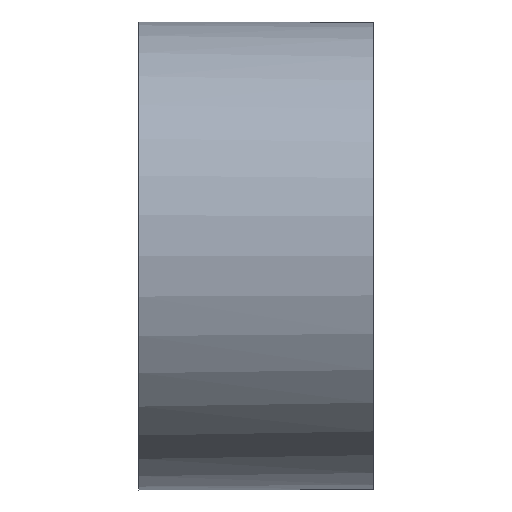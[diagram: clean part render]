
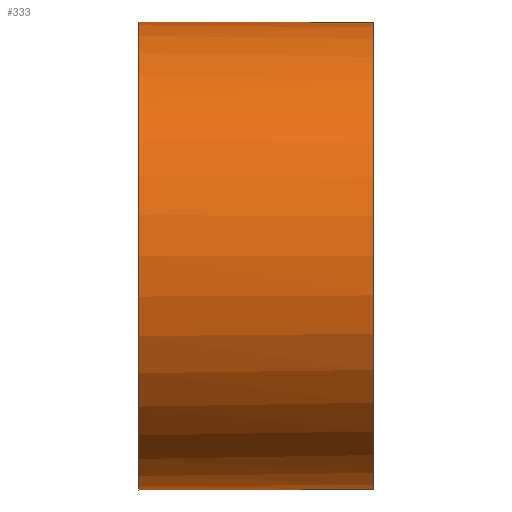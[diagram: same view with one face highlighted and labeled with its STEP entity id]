
A CAD part, left-side view. The second image highlights one B-rep face of the part: STEP entity #333.
In plain terms, the highlighted cylindrical face has radius 30 mm (diameter 60 mm), a partial arc.
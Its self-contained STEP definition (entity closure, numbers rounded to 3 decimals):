
#47=FACE_OUTER_BOUND('',#66,.T.);
#66=EDGE_LOOP('',(#295,#296,#297,#298,#299,#300,#301,#302));
#86=LINE('',#512,#121);
#96=LINE('',#532,#131);
#103=LINE('',#559,#138);
#104=LINE('',#563,#139);
#121=VECTOR('',#416,10.);
#131=VECTOR('',#430,10.);
#138=VECTOR('',#463,10.);
#139=VECTOR('',#468,10.);
#144=CIRCLE('',#369,30.);
#146=CIRCLE('',#372,30.);
#148=CIRCLE('',#375,30.);
#150=CIRCLE('',#380,30.);
#163=VERTEX_POINT('',#509);
#164=VERTEX_POINT('',#511);
#171=VERTEX_POINT('',#529);
#172=VERTEX_POINT('',#531);
#173=VERTEX_POINT('',#537);
#176=VERTEX_POINT('',#547);
#179=VERTEX_POINT('',#557);
#180=VERTEX_POINT('',#561);
#198=EDGE_CURVE('',#164,#163,#86,.T.);
#208=EDGE_CURVE('',#172,#171,#96,.T.);
#211=EDGE_CURVE('',#172,#173,#144,.T.);
#214=EDGE_CURVE('',#164,#171,#146,.T.);
#217=EDGE_CURVE('',#176,#163,#148,.T.);
#222=EDGE_CURVE('',#176,#179,#103,.T.);
#223=EDGE_CURVE('',#180,#179,#150,.T.);
#224=EDGE_CURVE('',#173,#180,#104,.T.);
#295=ORIENTED_EDGE('',*,*,#198,.T.);
#296=ORIENTED_EDGE('',*,*,#217,.F.);
#297=ORIENTED_EDGE('',*,*,#222,.T.);
#298=ORIENTED_EDGE('',*,*,#223,.F.);
#299=ORIENTED_EDGE('',*,*,#224,.F.);
#300=ORIENTED_EDGE('',*,*,#211,.F.);
#301=ORIENTED_EDGE('',*,*,#208,.T.);
#302=ORIENTED_EDGE('',*,*,#214,.F.);
#318=CYLINDRICAL_SURFACE('',#379,30.);
#333=ADVANCED_FACE('',(#47),#318,.T.);
#369=AXIS2_PLACEMENT_3D('',#538,#438,#439);
#372=AXIS2_PLACEMENT_3D('',#543,#445,#446);
#375=AXIS2_PLACEMENT_3D('',#549,#452,#453);
#379=AXIS2_PLACEMENT_3D('',#560,#464,#465);
#380=AXIS2_PLACEMENT_3D('',#562,#466,#467);
#416=DIRECTION('',(0.,-1.,0.));
#430=DIRECTION('',(0.,1.,0.));
#438=DIRECTION('center_axis',(0.,-1.,0.));
#439=DIRECTION('ref_axis',(-1.,0.,0.));
#445=DIRECTION('center_axis',(0.,1.,0.));
#446=DIRECTION('ref_axis',(-1.,0.,0.));
#452=DIRECTION('center_axis',(0.,-1.,0.));
#453=DIRECTION('ref_axis',(-1.,0.,0.));
#463=DIRECTION('',(0.,-1.,0.));
#464=DIRECTION('center_axis',(0.,-1.,0.));
#465=DIRECTION('ref_axis',(-1.,0.,0.));
#466=DIRECTION('center_axis',(0.,-1.,0.));
#467=DIRECTION('ref_axis',(-1.,0.,0.));
#468=DIRECTION('',(0.,-1.,0.));
#509=CARTESIAN_POINT('',(-50.423,0.,-5.));
#511=CARTESIAN_POINT('',(-50.423,20.,-5.));
#512=CARTESIAN_POINT('',(-50.423,0.,-5.));
#529=CARTESIAN_POINT('',(-50.416,20.,5.));
#531=CARTESIAN_POINT('',(-50.416,0.,5.));
#532=CARTESIAN_POINT('',(-50.416,0.,5.));
#537=CARTESIAN_POINT('',(-76.243,0.,29.783));
#538=CARTESIAN_POINT('Origin',(-80.,0.,0.019));
#543=CARTESIAN_POINT('Origin',(-80.,20.,0.019));
#547=CARTESIAN_POINT('',(-76.257,0.,-29.746));
#549=CARTESIAN_POINT('Origin',(-80.,0.,0.019));
#557=CARTESIAN_POINT('',(-76.257,-10.,-29.746));
#559=CARTESIAN_POINT('',(-76.257,0.,-29.746));
#560=CARTESIAN_POINT('Origin',(-80.,0.,0.019));
#561=CARTESIAN_POINT('',(-76.243,-10.,29.783));
#562=CARTESIAN_POINT('Origin',(-80.,-10.,0.019));
#563=CARTESIAN_POINT('',(-76.243,0.,29.783));
